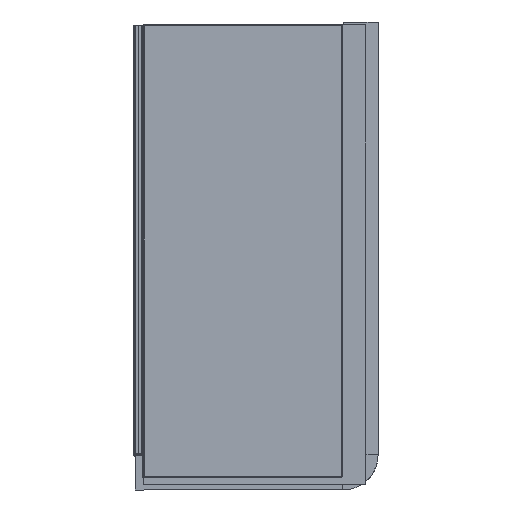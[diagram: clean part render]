
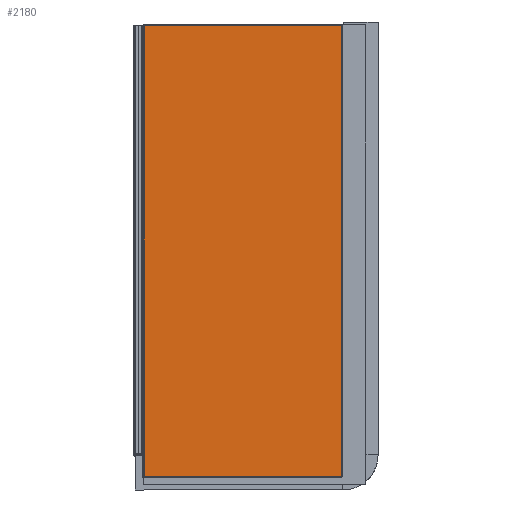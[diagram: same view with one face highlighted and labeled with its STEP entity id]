
A CAD part, left-side view. The second image highlights one B-rep face of the part: STEP entity #2180.
In plain terms, the highlighted planar face has unit normal (-1, 0, 0) as drawn and (0, 0, -1) by its records, which use the part's own axes.
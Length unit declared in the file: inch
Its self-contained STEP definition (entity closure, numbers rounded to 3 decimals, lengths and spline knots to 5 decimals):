
#2048=CARTESIAN_POINT('Line Origine',(143.87455,-5.76955,0.)) ;
#2052=CARTESIAN_POINT('Vertex',(-13.03265,-5.76955,0.)) ;
#2054=CARTESIAN_POINT('Vertex',(13.11855,-5.76955,0.)) ;
#2150=CARTESIAN_POINT('Axis2P3D Location',(0.,0.,0.)) ;
#2155=CARTESIAN_POINT('Line Origine',(0.04295,5.68365,0.)) ;
#2159=CARTESIAN_POINT('Vertex',(13.11855,5.68365,0.)) ;
#2161=CARTESIAN_POINT('Vertex',(-13.03265,5.68365,0.)) ;
#2164=CARTESIAN_POINT('Line Origine',(13.11855,-0.04295,0.)) ;
#2169=CARTESIAN_POINT('Line Origine',(-13.03265,-0.04295,0.)) ;
#2049=DIRECTION('Vector Direction',(-1.,0.,0.)) ;
#2151=DIRECTION('Axis2P3D Direction',(0.,0.,-1.)) ;
#2152=DIRECTION('Axis2P3D XDirection',(1.,0.,0.)) ;
#2156=DIRECTION('Vector Direction',(-1.,0.,0.)) ;
#2165=DIRECTION('Vector Direction',(0.,1.,0.)) ;
#2170=DIRECTION('Vector Direction',(0.,-1.,0.)) ;
#2153=AXIS2_PLACEMENT_3D('Plane Axis2P3D',#2150,#2151,#2152) ;
#2175=ORIENTED_EDGE('',*,*,#2163,.F.) ;
#2176=ORIENTED_EDGE('',*,*,#2168,.F.) ;
#2177=ORIENTED_EDGE('',*,*,#2056,.F.) ;
#2178=ORIENTED_EDGE('',*,*,#2173,.F.) ;
#2050=VECTOR('Line Direction',#2049,0.03937) ;
#2157=VECTOR('Line Direction',#2156,0.03937) ;
#2166=VECTOR('Line Direction',#2165,0.03937) ;
#2171=VECTOR('Line Direction',#2170,0.03937) ;
#2180=ADVANCED_FACE('<36376>-<Cut-Extrude3>',(#2179),#2154,.T.) ;
#2056=EDGE_CURVE('',#2053,#2055,#2051,.F.) ;
#2163=EDGE_CURVE('',#2160,#2162,#2158,.T.) ;
#2168=EDGE_CURVE('',#2055,#2160,#2167,.T.) ;
#2173=EDGE_CURVE('',#2162,#2053,#2172,.T.) ;
#2174=EDGE_LOOP('',(#2175,#2176,#2177,#2178)) ;
#2179=FACE_OUTER_BOUND('',#2174,.T.) ;
#2051=LINE('Line',#2048,#2050) ;
#2158=LINE('Line',#2155,#2157) ;
#2167=LINE('Line',#2164,#2166) ;
#2172=LINE('Line',#2169,#2171) ;
#2154=PLANE('',#2153) ;
#2053=VERTEX_POINT('',#2052) ;
#2055=VERTEX_POINT('',#2054) ;
#2160=VERTEX_POINT('',#2159) ;
#2162=VERTEX_POINT('',#2161) ;
